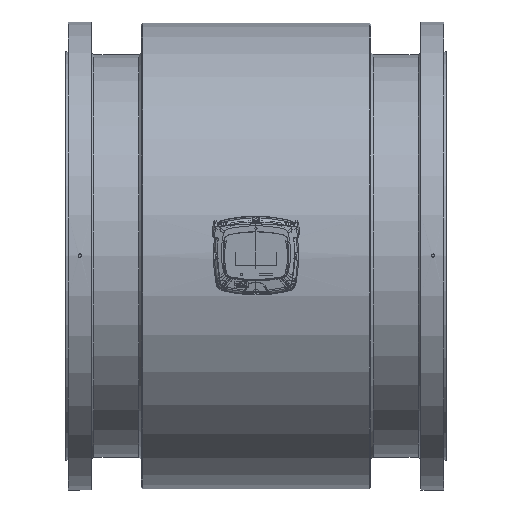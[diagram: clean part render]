
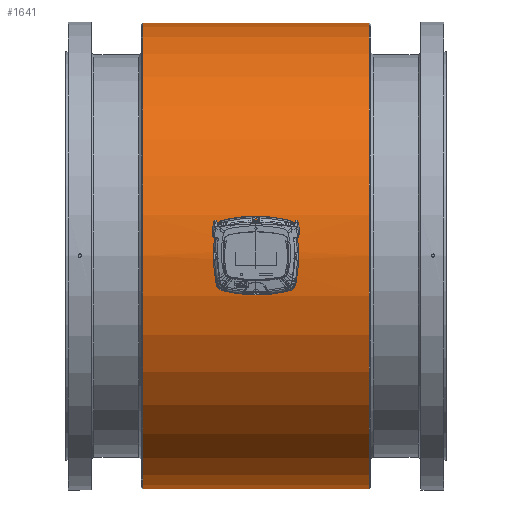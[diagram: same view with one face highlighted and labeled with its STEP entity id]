
A CAD part, top view. The second image highlights one B-rep face of the part: STEP entity #1641.
In plain terms, the highlighted cylindrical face has radius 428 mm (diameter 856 mm), a full revolution.
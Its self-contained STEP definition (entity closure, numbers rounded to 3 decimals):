
#1576=CARTESIAN_POINT('',(0.,-11.499,427.845));
#1577=VERTEX_POINT('',#1576);
#1587=CARTESIAN_POINT('',(0.,-11.5,427.845));
#1588=CARTESIAN_POINT('',(1.73,-11.5,427.845));
#1589=CARTESIAN_POINT('',(5.191,-10.714,427.868));
#1590=CARTESIAN_POINT('',(9.354,-7.416,427.942));
#1591=CARTESIAN_POINT('',(11.663,-2.646,428.002));
#1592=CARTESIAN_POINT('',(11.663,2.647,428.002));
#1593=CARTESIAN_POINT('',(9.352,7.413,427.943));
#1594=CARTESIAN_POINT('',(4.729,11.086,427.859));
#1595=CARTESIAN_POINT('',(-0.04,11.805,427.837));
#1596=CARTESIAN_POINT('',(-3.423,11.03,427.858));
#1597=CARTESIAN_POINT('',(-6.658,9.775,427.89));
#1598=CARTESIAN_POINT('',(-9.743,6.919,427.953));
#1599=CARTESIAN_POINT('',(-11.66,2.056,428.002));
#1600=CARTESIAN_POINT('',(-11.664,-2.645,428.002));
#1601=CARTESIAN_POINT('',(-9.353,-7.417,427.942));
#1602=CARTESIAN_POINT('',(-5.191,-10.714,427.868));
#1603=CARTESIAN_POINT('',(-1.73,-11.5,427.845));
#1604=CARTESIAN_POINT('',(0.,-11.5,427.845));
#1605=B_SPLINE_CURVE_WITH_KNOTS('',3,(#1587,#1588,#1589,#1590,#1591,#1592,#1593,#1594,#1595,#1596,#1597,#1598,#1599,#1600,#1601,#1602,#1603,#1604),.UNSPECIFIED.,.T.,.U.,(4,1,1,1,1,1,1,1,1,1,1,1,1,1,1,4),(-7.236,-6.719,-6.202,-5.685,-5.168,-4.652,-4.135,-3.446,-3.273,-3.101,-2.412,-2.067,-1.551,-1.034,-0.517,0.0),.UNSPECIFIED.);
#1606=EDGE_CURVE('',#1577,#1577,#1605,.T.);
#1611=CARTESIAN_POINT('',(104.25,0.0,0.0));
#1612=DIRECTION('',(1.0,0.0,0.0));
#1613=DIRECTION('',(0.0,1.0,0.0));
#1614=AXIS2_PLACEMENT_3D('',#1611,#1612,#1613);
#1615=CYLINDRICAL_SURFACE('',#1614,428.0);
#1616=CARTESIAN_POINT('',(-208.5,428.0,0.0));
#1617=VERTEX_POINT('',#1616);
#1618=CARTESIAN_POINT('',(-208.5,0.0,0.0));
#1619=DIRECTION('',(1.0,0.0,0.0));
#1620=DIRECTION('',(0.0,1.0,0.0));
#1621=AXIS2_PLACEMENT_3D('',#1618,#1619,#1620);
#1622=CIRCLE('',#1621,428.0);
#1623=EDGE_CURVE('',#1617,#1617,#1622,.T.);
#1624=ORIENTED_EDGE('',*,*,#1623,.T.);
#1625=EDGE_LOOP('',(#1624));
#1626=FACE_OUTER_BOUND('',#1625,.T.);
#1627=CARTESIAN_POINT('',(208.5,428.0,0.0));
#1628=VERTEX_POINT('',#1627);
#1629=CARTESIAN_POINT('',(208.5,0.0,0.0));
#1630=DIRECTION('',(1.0,0.0,0.0));
#1631=DIRECTION('',(0.0,1.0,0.0));
#1632=AXIS2_PLACEMENT_3D('',#1629,#1630,#1631);
#1633=CIRCLE('',#1632,428.0);
#1634=EDGE_CURVE('',#1628,#1628,#1633,.T.);
#1635=ORIENTED_EDGE('',*,*,#1634,.F.);
#1636=EDGE_LOOP('',(#1635));
#1637=FACE_BOUND('',#1636,.T.);
#1638=ORIENTED_EDGE('',*,*,#1606,.F.);
#1639=EDGE_LOOP('',(#1638));
#1640=FACE_BOUND('',#1639,.T.);
#1641=ADVANCED_FACE('',(#1626,#1637,#1640),#1615,.T.);
